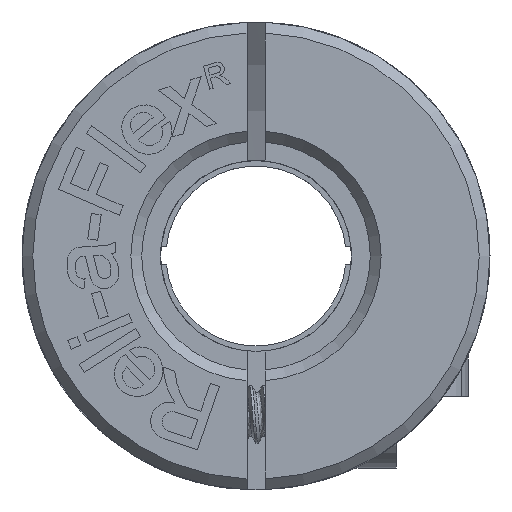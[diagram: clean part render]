
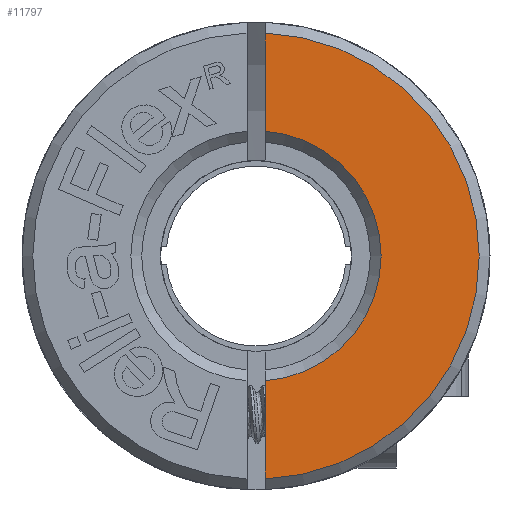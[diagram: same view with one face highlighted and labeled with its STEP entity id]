
A CAD part, front view. The second image highlights one B-rep face of the part: STEP entity #11797.
In plain terms, the highlighted planar face has unit normal (0, -1, 0).
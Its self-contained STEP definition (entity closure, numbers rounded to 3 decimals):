
#565 = VERTEX_POINT ( 'NONE', #9767 ) ;
#6145 = CIRCLE ( 'NONE', #6146, 3.475 ) ;
#6146 = AXIS2_PLACEMENT_3D ( 'NONE', #14286, #14287, #14288 ) ;
#6175 = VECTOR ( 'NONE', #14366, 1000. ) ;
#6177 = VECTOR ( 'NONE', #14372, 1000. ) ;
#6180 = CIRCLE ( 'NONE', #6181, 6.2 ) ;
#6181 = AXIS2_PLACEMENT_3D ( 'NONE', #14369, #14370, #14371 ) ;
#8668 = EDGE_CURVE ( 'NONE', #10395, #10245, #6145, .T. ) ;
#8693 = EDGE_CURVE ( 'NONE', #565, #10245, #14361, .T. ) ;
#8694 = EDGE_CURVE ( 'NONE', #10394, #565, #6180, .T. ) ;
#8695 = EDGE_CURVE ( 'NONE', #10395, #10394, #14368, .T. ) ;
#8771 = AXIS2_PLACEMENT_3D ( 'NONE', #12841, #12848, #12849 ) ;
#9767 = CARTESIAN_POINT ( 'NONE',  ( 0.25, 0., -6.195 ) ) ;
#10245 = VERTEX_POINT ( 'NONE', #14461 ) ;
#10394 = VERTEX_POINT ( 'NONE', #12026 ) ;
#10395 = VERTEX_POINT ( 'NONE', #12027 ) ;
#11797 = ADVANCED_FACE ( 'NONE', ( #12844 ), #12845, .T. ) ;
#12026 = CARTESIAN_POINT ( 'NONE',  ( 0.25, 0., 6.195 ) ) ;
#12027 = CARTESIAN_POINT ( 'NONE',  ( 0.25, 0., 3.466 ) ) ;
#12841 = CARTESIAN_POINT ( 'NONE',  ( 0.25, 0., 6.269 ) ) ;
#12844 = FACE_OUTER_BOUND ( 'NONE', #17057, .T. ) ;
#12845 = PLANE ( 'NONE',  #8771 ) ;
#12848 = DIRECTION ( 'NONE',  ( 0., -1., 0. ) ) ;
#12849 = DIRECTION ( 'NONE',  ( 0., 0., -1. ) ) ;
#14286 = CARTESIAN_POINT ( 'NONE',  ( 0., 0., 0. ) ) ;
#14287 = DIRECTION ( 'NONE',  ( 0., 1., 0. ) ) ;
#14288 = DIRECTION ( 'NONE',  ( 0., 0., -1. ) ) ;
#14361 = LINE ( 'NONE', #14365, #6175 ) ;
#14364 = CARTESIAN_POINT ( 'NONE',  ( 0.25, 0., 4.567 ) ) ;
#14365 = CARTESIAN_POINT ( 'NONE',  ( 0.25, 0., -4.567 ) ) ;
#14366 = DIRECTION ( 'NONE',  ( 0., 0., 1. ) ) ;
#14368 = LINE ( 'NONE', #14364, #6177 ) ;
#14369 = CARTESIAN_POINT ( 'NONE',  ( 0., 0., 0. ) ) ;
#14370 = DIRECTION ( 'NONE',  ( 0., 1., 0. ) ) ;
#14371 = DIRECTION ( 'NONE',  ( 0., 0., 1. ) ) ;
#14372 = DIRECTION ( 'NONE',  ( 0., 0., 1. ) ) ;
#14461 = CARTESIAN_POINT ( 'NONE',  ( 0.25, 0., -3.466 ) ) ;
#17057 = EDGE_LOOP ( 'NONE', ( #17713, #17714, #17715, #17716 ) ) ;
#17713 = ORIENTED_EDGE ( 'NONE', *, *, #8693, .F. ) ;
#17714 = ORIENTED_EDGE ( 'NONE', *, *, #8694, .F. ) ;
#17715 = ORIENTED_EDGE ( 'NONE', *, *, #8695, .F. ) ;
#17716 = ORIENTED_EDGE ( 'NONE', *, *, #8668, .T. ) ;
